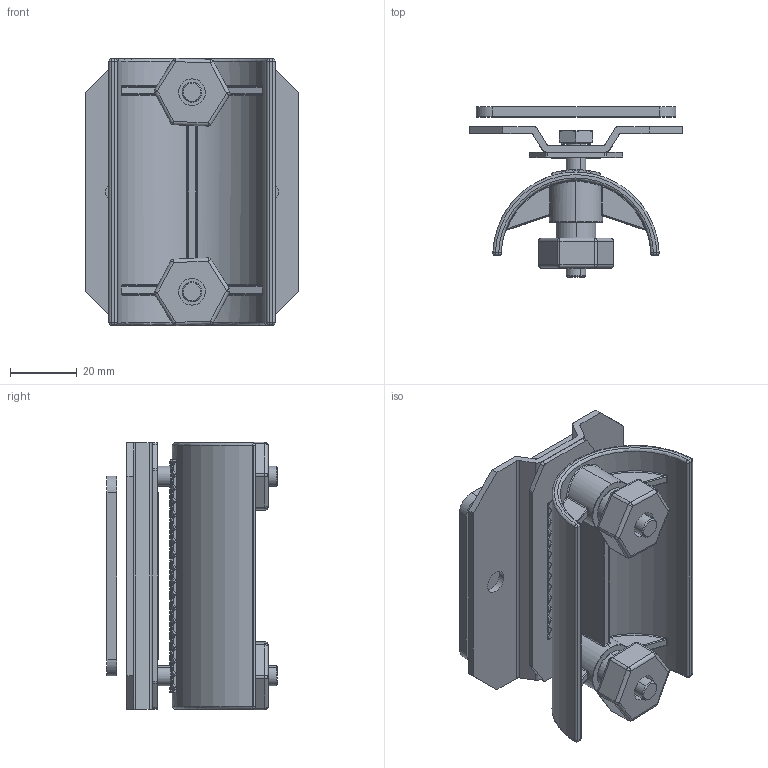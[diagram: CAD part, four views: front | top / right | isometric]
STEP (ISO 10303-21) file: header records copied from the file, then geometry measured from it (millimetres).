
FILE_DESCRIPTION (( 'STEP AP203' ), '1' );
FILE_NAME ('傷陬.STEP', '2022-03-10T13:22:32', ( '' ), ( '' ), 'SwSTEP 2.0', 'SolidWorks 2017', '' );
FILE_SCHEMA (( 'CONFIG_CONTROL_DESIGN' ));
Length unit declared in the file: millimetre
Products named in the file (7): 傷陬; 傷陬-0310-1; 萇擢苤陬滅賑菜; 电缆小车下支撑(网纹); 傷陬-0310-2; 嘐隅盄擢標3; hexagon head bolts--product grade c gb_GB_FASTENER_BOLT_HHBC M6X40-N
Assembly tree (8 placements, depth 2):
  傷陬
    hexagon head bolts--product grade c gb_GB_FASTENER_BOLT_HHBC M6X40-N  x2
    嘐隅盄擢標3  x2
    萇擢苤陬滅賑菜
    电缆小车下支撑(网纹)
    傷陬-0310-1
    傷陬-0310-2
Bounding box: 64 x 51.16 x 80.37 mm (x, y, z)
Volume: 54395.6 mm3; surface area: 45220.9 mm2
Topology: 8 solids, 8 shells, 1651 faces, 3694 edges, 2052 vertices
Faces by surface type: bspline 665, plane 657, cylinder 301, cone 28
Entity records: 71748 total; most frequent: CARTESIAN_POINT 43037, ORIENTED_EDGE 7058, DIRECTION 4094, EDGE_CURVE 3529, VERTEX_POINT 1968, VECTOR 1622, LINE 1622, EDGE_LOOP 1609
